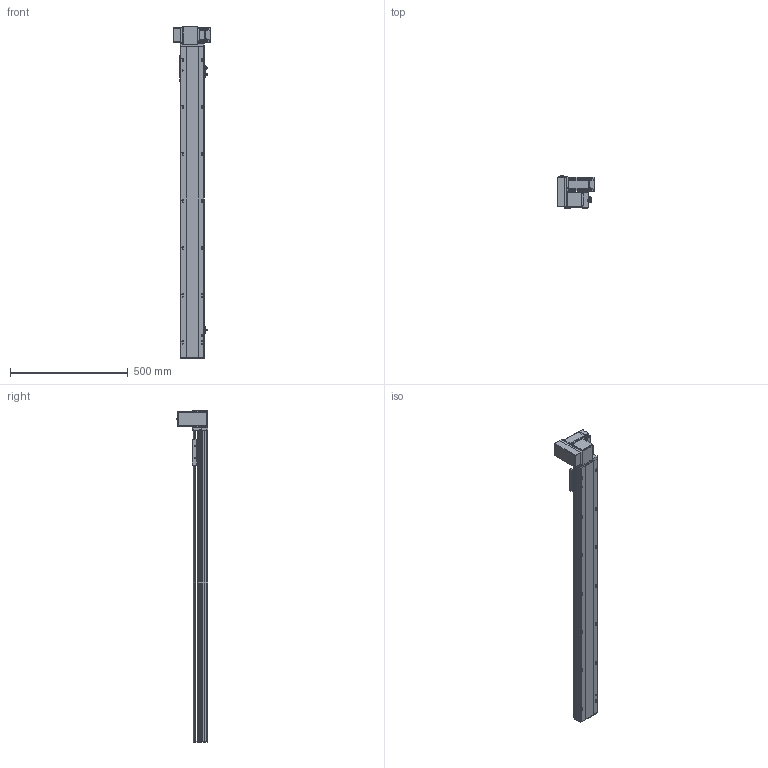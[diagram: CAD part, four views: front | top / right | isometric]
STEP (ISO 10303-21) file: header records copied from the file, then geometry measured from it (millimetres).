
FILE_DESCRIPTION (( 'STEP AP214' ), '1' );
FILE_NAME ('TPT10-L32-1100-LU-T10-C4.STEP', '2023-03-02T11:38:19', ( '' ), ( '' ), 'SwSTEP 2.0', 'SolidWorks 2020', '' );
FILE_SCHEMA (( 'AUTOMOTIVE_DESIGN' ));
Length unit declared in the file: millimetre
Products named in the file (12): 葩璃 TPT10-L-005 賑釱MZ-102A-03^TPT10-L32-LU-T10-C4; 葩璃 pm-t65-672^TPT10-L32-LU-T10-C4; 葩璃 TPT10-L-009 萇儂啣^TPT10-L32-LU-T10-C4_100W; 葩璃 侂狟400W^TPT10-L32-LU-T10-C4; hexagon head bolts-full thread gb_GB_FASTENER_BOLT_STBAB A M5X16-N; hex nuts, style 1-grades ab gb_GB_FASTENER_NUT_SNAB1 M3-N; hexagon socket head cap screws gb_GB_FASTENER_SCREWS_HSHCS M3X6-N; 葩璃 侂狟100W^TPT10-L32-LU-T10-C4; TPT10-L32-1100-LU-T10-C4; 葩璃 TPT10-L-001 菁釱MZ-102A-01^TPT10-L32-LU-T10-C4; 葩璃 TPT10-L-007 々湍釱MZ-169x88^TPT10-L32-LU-T10-C4_L; 葩璃 TPT10-L-002 奻裔MZ-102A-02^TPT10-L32-LU-T10-C4
Assembly tree (23 placements, depth 2):
  TPT10-L32-1100-LU-T10-C4
    葩璃 TPT10-L-001 菁釱MZ-102A-01^TPT10-L32-LU-T10-C4
    葩璃 TPT10-L-002 奻裔MZ-102A-02^TPT10-L32-LU-T10-C4
    葩璃 TPT10-L-007 々湍釱MZ-169x88^TPT10-L32-LU-T10-C4_L
    葩璃 TPT10-L-005 賑釱MZ-102A-03^TPT10-L32-LU-T10-C4
    葩璃 TPT10-L-009 萇儂啣^TPT10-L32-LU-T10-C4_100W
    葩璃 pm-t65-672^TPT10-L32-LU-T10-C4  x3
    葩璃 侂狟100W^TPT10-L32-LU-T10-C4
    葩璃 侂狟400W^TPT10-L32-LU-T10-C4
    hexagon head bolts-full thread gb_GB_FASTENER_BOLT_STBAB A M5X16-N
    hexagon socket head cap screws gb_GB_FASTENER_SCREWS_HSHCS M3X6-N  x6
    hex nuts, style 1-grades ab gb_GB_FASTENER_NUT_SNAB1 M3-N  x6
Bounding box: 160.5 x 134.65 x 1410 mm (x, y, z)
Volume: 4797147.7 mm3; surface area: 950606 mm2
Topology: 31 solids, 31 shells, 1939 faces, 5081 edges, 3247 vertices
Faces by surface type: plane 1056, cylinder 635, cone 202, bspline 34, torus 12
Entity records: 49271 total; most frequent: CARTESIAN_POINT 9708, DIRECTION 8052, ORIENTED_EDGE 7770, EDGE_CURVE 3885, AXIS2_PLACEMENT_3D 2836, VERTEX_POINT 2538, LINE 2380, VECTOR 2380
